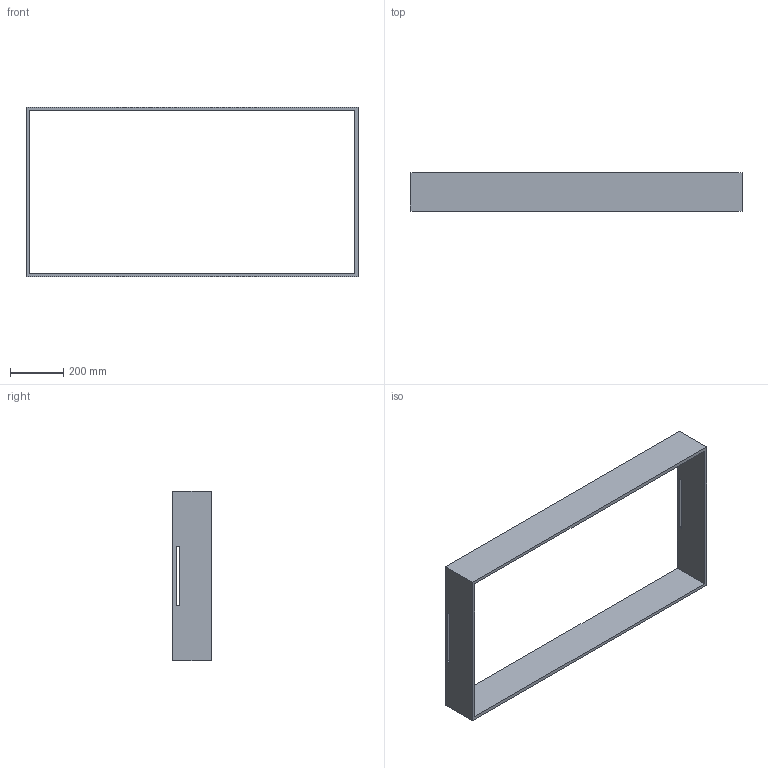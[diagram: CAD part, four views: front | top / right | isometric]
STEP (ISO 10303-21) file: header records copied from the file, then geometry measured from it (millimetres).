
FILE_DESCRIPTION(('STEP AP242 Edition 2','STEP AP242 Edition 2''CAx-IF Rec.Pracs.---Representation and Presentation of Product Manufacturing Information (PMI)---4.0---2014-10-13','STEP AP242 Edition 2''CAx-IF Rec.Pracs.---Representation and Presentation of Product Manufacturing Information (PMI)---4.0---2014-10-13''CAx-IF Rec.Pracs.---3D Tessellated Geometry---0.4---2014-09-14','STEP AP242 Edition 2''CAx-IF Rec.Pracs.---Representation and Presentation of Product Manufacturing Information (PMI)---4.0---2014-10-13''CAx-IF Rec.Pracs.---3D Tessellated Geometry---0.4---2014-09-14''2;1','STEP AP242 Edition 2''CAx-IF Rec.Pracs.---Representation and Presentation of Product Manufacturing Information (PMI)---4.0---2014-10-13''CAx-IF Rec.Pracs.---3D Tessellated Geometry---0.4---2014-09-14''2;1''CAx-IF Rec.Pracs.---User Defined Attributes---1.5---2016-08-15'),'2;1');
FILE_NAME('/vol/tmp/translate-2016734348789797861/Part Studio 1 - Part 20.step','2026-03-05T22:36:48',(''),(''),'ST-DEVELOPER v20','ONSHAPE BY PTC INC, 1.211',' ');
FILE_SCHEMA(('AP242_MANAGED_MODEL_BASED_3D_ENGINEERING_MIM_LF { 1 0 10303 442 3 1 4 }'));
Length unit declared in the file: metre
Products named in the file (1): Part 20
Bounding box: 1244.6 x 144 x 635 mm (x, y, z)
Volume: 6715149.7 mm3; surface area: 1163563.6 mm2
Topology: 1 solids, 1 shells, 18 faces, 48 edges, 32 vertices
Faces by surface type: plane 18
Entity records: 586 total; most frequent: CARTESIAN_POINT 99, ORIENTED_EDGE 96, DIRECTION 86, EDGE_CURVE 48, LINE 48, VECTOR 48, VERTEX_POINT 32, EDGE_LOOP 24
